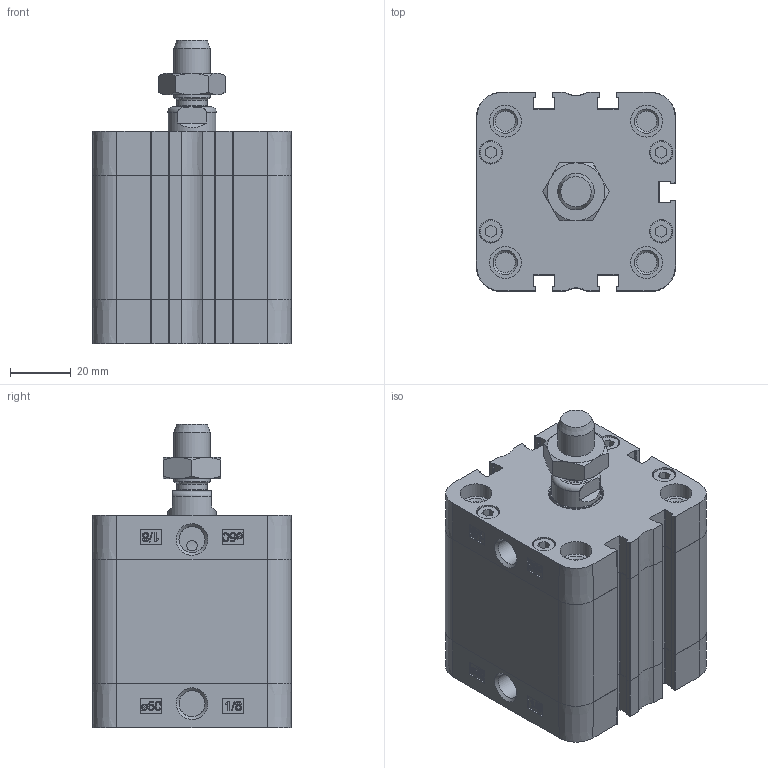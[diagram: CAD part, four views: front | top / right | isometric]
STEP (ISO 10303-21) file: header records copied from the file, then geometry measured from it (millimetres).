
FILE_DESCRIPTION(/* description */ ('Unknown'),/* implementation_level */ '2;1');
FILE_NAME(/* name */ 'ZIF 50_25',/* time_stamp */ '2024-11-12T12:05:24+01:00',/* author */ ('Unknown'),/* organization */ ('HAFNER Pneumatika Kft.'),/* preprocessor_version */ 'ST-DEVELOPER v18.102',/* originating_system */ 'Solid Edge',/* authorisation */ 'Unknown');
FILE_SCHEMA (('AUTOMOTIVE_DESIGN {1 0 10303 214 3 1 1}'));
Length unit declared in the file: millimetre
Products named in the file (6): ZIF 50_25; Profilrohr; Kit_2; Kit_1; Mutter; Kolbenstange
Assembly tree (5 placements, depth 2):
  ZIF 50_25
    Profilrohr
    Kit_2
    Kit_1
    Mutter
    Kolbenstange
Bounding box: 65.5 x 65.5 x 100 mm (x, y, z)
Volume: 237541.6 mm3; surface area: 65378.4 mm2
Topology: 5 solids, 13 shells, 757 faces, 1954 edges, 1282 vertices
Faces by surface type: plane 344, cylinder 213, bspline 108, cone 47, torus 45
Full cylindrical faces by diameter (mm): 3.5 x1, 5.2 x8, 6.647 x8, 7.5 x8, 7.7 x8, 8.566 x2, 10 x1, 10.5 x8, 10.647 x1, 12 x2, 16 x1, 16.54 x1, 17.7 x1, 18 x1, 20.5 x1, 50 x2
Entity records: 28209 total; most frequent: CARTESIAN_POINT 5932, ORIENTED_EDGE 3646, DIRECTION 3368, EDGE_CURVE 1823, VERTEX_POINT 1251, AXIS2_PLACEMENT_3D 1173, LINE 1022, VECTOR 1022
